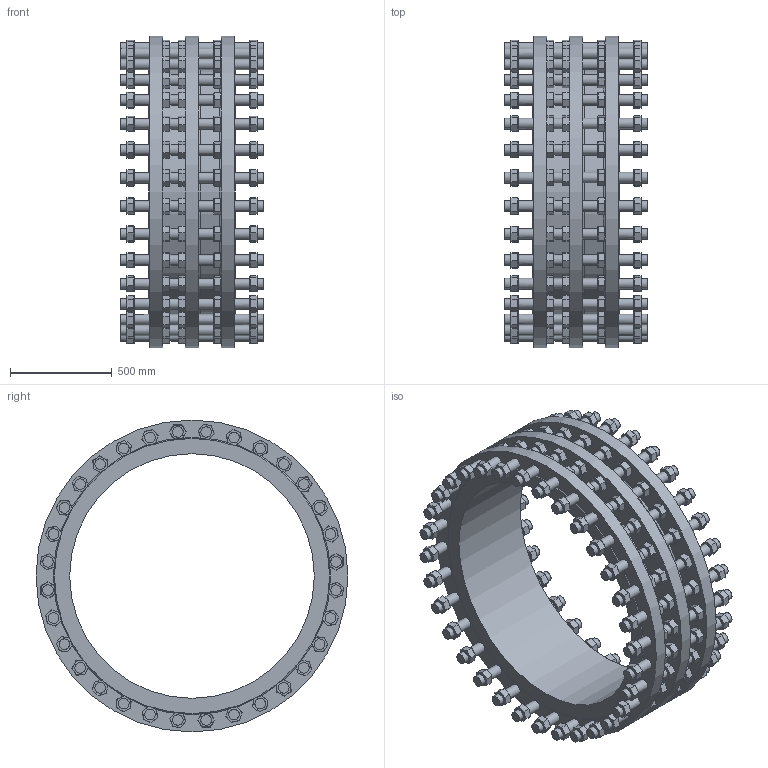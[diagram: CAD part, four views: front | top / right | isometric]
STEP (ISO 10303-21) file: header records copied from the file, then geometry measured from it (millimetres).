
FILE_DESCRIPTION (( 'STEP AP203' ), '1' );
FILE_NAME ('873120000741000.STEP', '2021-11-05T10:29:44', ( '' ), ( '' ), 'SwSTEP 2.0', 'SolidWorks 2020', '' );
FILE_SCHEMA (( 'CONFIG_CONTROL_DESIGN' ));
Length unit declared in the file: millimetre
Products named in the file (1): 873120000741000
Bounding box: 700 x 1530 x 1530 mm (x, y, z)
Volume: 206636457.4 mm3; surface area: 12709182.2 mm2
Topology: 161 solids, 161 shells, 3571 faces, 7739 edges, 4561 vertices
Faces by surface type: plane 3273, cylinder 295, cone 3
Full cylindrical faces by diameter (mm): 47 x160, 52 x128, 1200 x1, 1235 x1, 1250 x1, 1280 x1, 1530 x3
Entity records: 91281 total; most frequent: CARTESIAN_POINT 15322, DIRECTION 15054, ORIENTED_EDGE 14630, EDGE_CURVE 7315, LINE 6720, VECTOR 6720, VERTEX_POINT 4435, EDGE_LOOP 4390
